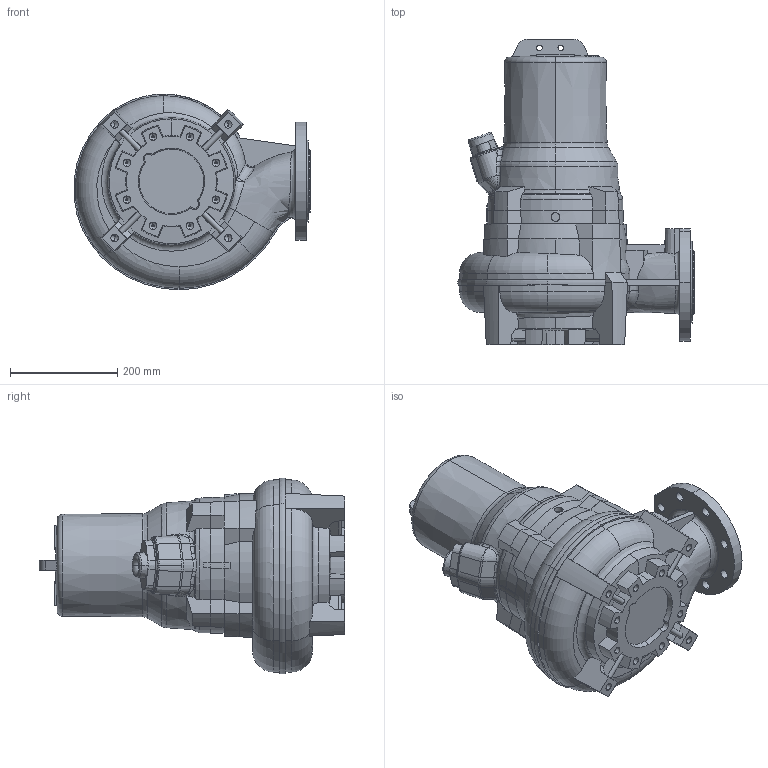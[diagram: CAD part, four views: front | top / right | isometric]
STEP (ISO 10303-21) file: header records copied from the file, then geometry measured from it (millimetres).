
FILE_DESCRIPTION (( 'STEP AP203' ), '1' );
FILE_NAME ('100FWC-M_5,5kW.STEP', '2025-03-21T10:28:23', ( '' ), ( '' ), 'SwSTEP 2.0', 'SolidWorks 2023', '' );
FILE_SCHEMA (( 'CONFIG_CONTROL_DESIGN' ));
Length unit declared in the file: millimetre
Products named in the file (1): 100FWC-M_5,5kW
Bounding box: 441.26 x 570 x 365.91 mm (x, y, z)
Volume: 29736435.2 mm3; surface area: 790383.6 mm2
Topology: 1 solids, 2 shells, 657 faces, 1719 edges, 1089 vertices
Faces by surface type: plane 258, cone 147, cylinder 92, bspline 88, torus 65, sphere 7
Entity records: 26895 total; most frequent: CARTESIAN_POINT 11427, ORIENTED_EDGE 3414, DIRECTION 3008, EDGE_CURVE 1707, AXIS2_PLACEMENT_3D 1214, VERTEX_POINT 1089, EDGE_LOOP 714, ADVANCED_FACE 657
